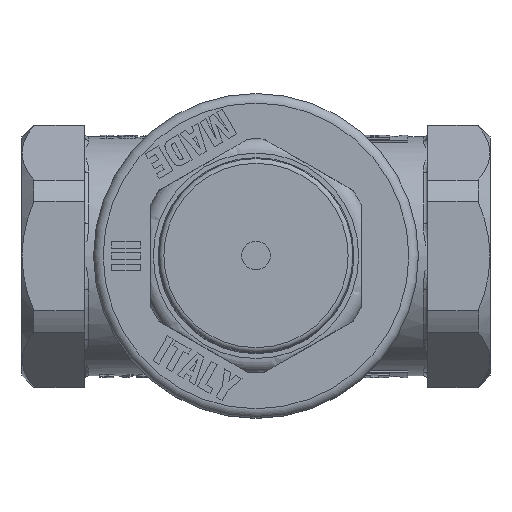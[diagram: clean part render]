
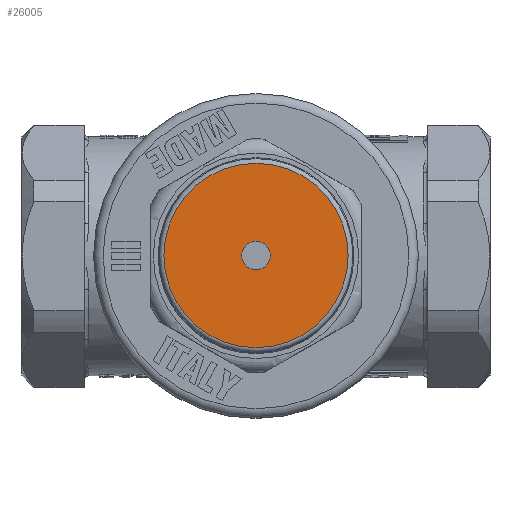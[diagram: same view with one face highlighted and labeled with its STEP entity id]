
A CAD part, top view. The second image highlights one B-rep face of the part: STEP entity #26005.
In plain terms, the highlighted planar face has unit normal (0, 0, 1).
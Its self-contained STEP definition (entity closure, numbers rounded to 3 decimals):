
#25929=CARTESIAN_POINT('',(-9.65,0.,49.));
#25930=VERTEX_POINT('',#25929);
#25957=CARTESIAN_POINT('',(9.65,-0.,49.));
#25958=VERTEX_POINT('',#25957);
#25959=CARTESIAN_POINT('',(0.,-0.,49.));
#25960=DIRECTION('',(0.,-0.,-1.));
#25961=DIRECTION('',(1.,0.,0.));
#25962=AXIS2_PLACEMENT_3D('',#25959,#25960,#25961);
#25963=CIRCLE('',#25962,9.65);
#25964=EDGE_CURVE('',#25930,#25958,#25963,.T.);
#25966=CARTESIAN_POINT('',(0.,-0.,49.));
#25967=DIRECTION('',(0.,-0.,-1.));
#25968=DIRECTION('',(1.,0.,0.));
#25969=AXIS2_PLACEMENT_3D('',#25966,#25967,#25968);
#25970=CIRCLE('',#25969,9.65);
#25971=EDGE_CURVE('',#25958,#25930,#25970,.T.);
#25976=CARTESIAN_POINT('',(-1.5,0.,49.));
#25977=DIRECTION('',(-0.,0.,1.));
#25978=DIRECTION('',(-1.,0.,-0.));
#25979=AXIS2_PLACEMENT_3D('',#25976,#25977,#25978);
#25980=PLANE('',#25979);
#25981=ORIENTED_EDGE('',*,*,#25964,.F.);
#25982=ORIENTED_EDGE('',*,*,#25971,.F.);
#25983=EDGE_LOOP('',(#25981,#25982));
#25984=FACE_BOUND('',#25983,.T.);
#25985=CARTESIAN_POINT('',(-1.5,0.,49.));
#25986=VERTEX_POINT('',#25985);
#25987=CARTESIAN_POINT('',(1.5,-0.,49.));
#25988=VERTEX_POINT('',#25987);
#25989=CARTESIAN_POINT('',(0.,-0.,49.));
#25990=DIRECTION('',(-0.,0.,1.));
#25991=DIRECTION('',(1.,0.,0.));
#25992=AXIS2_PLACEMENT_3D('',#25989,#25990,#25991);
#25993=CIRCLE('',#25992,1.5);
#25994=EDGE_CURVE('',#25986,#25988,#25993,.T.);
#25995=ORIENTED_EDGE('',*,*,#25994,.F.);
#25996=CARTESIAN_POINT('',(0.,-0.,49.));
#25997=DIRECTION('',(-0.,0.,1.));
#25998=DIRECTION('',(1.,0.,0.));
#25999=AXIS2_PLACEMENT_3D('',#25996,#25997,#25998);
#26000=CIRCLE('',#25999,1.5);
#26001=EDGE_CURVE('',#25988,#25986,#26000,.T.);
#26002=ORIENTED_EDGE('',*,*,#26001,.F.);
#26003=EDGE_LOOP('',(#25995,#26002));
#26004=FACE_BOUND('',#26003,.T.);
#26005=ADVANCED_FACE('',(#25984,#26004),#25980,.T.);
